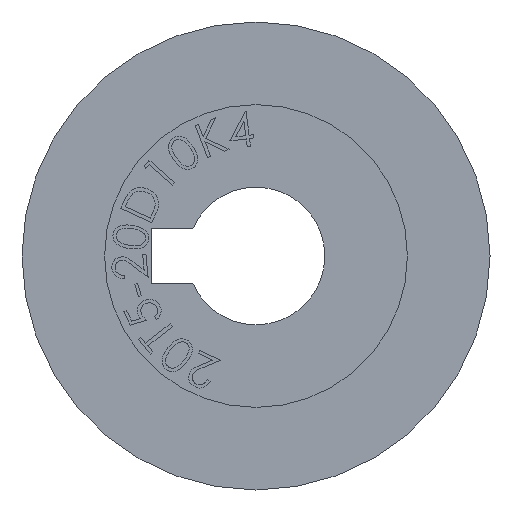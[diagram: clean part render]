
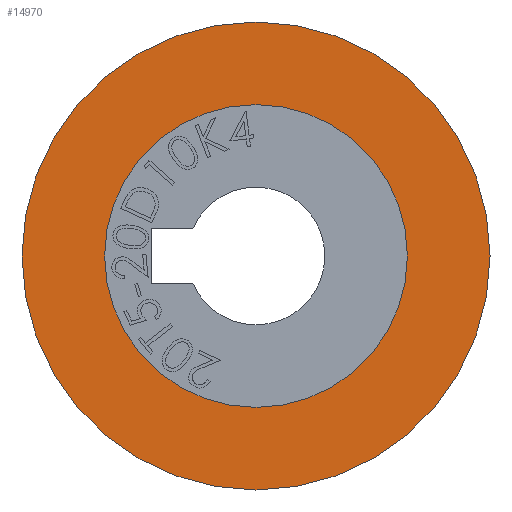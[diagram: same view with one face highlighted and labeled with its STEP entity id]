
A CAD part, left-side view. The second image highlights one B-rep face of the part: STEP entity #14970.
In plain terms, the highlighted planar face has unit normal (-1, 0, 0).
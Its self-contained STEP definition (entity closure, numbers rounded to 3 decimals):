
#382 = CIRCLE ( 'NONE', #18224, 17. ) ;
#889 = DIRECTION ( 'NONE',  ( 1., 0., 0. ) ) ;
#1211 = DIRECTION ( 'NONE',  ( 0., 0., 1. ) ) ;
#1307 = PLANE ( 'NONE',  #15933 ) ;
#1644 = VERTEX_POINT ( 'NONE', #5200 ) ;
#2539 = ORIENTED_EDGE ( 'NONE', *, *, #5347, .T. ) ;
#2676 = DIRECTION ( 'NONE',  ( 0., 0., 1. ) ) ;
#3018 = DIRECTION ( 'NONE',  ( -1., 0., 0. ) ) ;
#3307 = CARTESIAN_POINT ( 'NONE',  ( 1., 0., 0. ) ) ;
#4980 = CARTESIAN_POINT ( 'NONE',  ( 1., 0., 0. ) ) ;
#5006 = EDGE_CURVE ( 'NONE', #15994, #10031, #17014, .T. ) ;
#5200 = CARTESIAN_POINT ( 'NONE',  ( 1., 0., -11. ) ) ;
#5249 = AXIS2_PLACEMENT_3D ( 'NONE', #18015, #6580, #2676 ) ;
#5347 = EDGE_CURVE ( 'NONE', #10031, #15994, #382, .T. ) ;
#5660 = AXIS2_PLACEMENT_3D ( 'NONE', #8276, #889, #14036 ) ;
#5760 = ORIENTED_EDGE ( 'NONE', *, *, #5006, .T. ) ;
#6159 = VERTEX_POINT ( 'NONE', #15657 ) ;
#6580 = DIRECTION ( 'NONE',  ( -1., 0., 0. ) ) ;
#6905 = FACE_OUTER_BOUND ( 'NONE', #14675, .T. ) ;
#7658 = CARTESIAN_POINT ( 'NONE',  ( 1., 0., 17. ) ) ;
#7691 = AXIS2_PLACEMENT_3D ( 'NONE', #4980, #17579, #17489 ) ;
#8276 = CARTESIAN_POINT ( 'NONE',  ( 1., 0., 0. ) ) ;
#9058 = DIRECTION ( 'NONE',  ( 0., 0., 1. ) ) ;
#9459 = EDGE_CURVE ( 'NONE', #6159, #1644, #15246, .T. ) ;
#10031 = VERTEX_POINT ( 'NONE', #16439 ) ;
#11986 = CIRCLE ( 'NONE', #5660, 11. ) ;
#12561 = DIRECTION ( 'NONE',  ( -1., 0., 0. ) ) ;
#13925 = ORIENTED_EDGE ( 'NONE', *, *, #14682, .T. ) ;
#14036 = DIRECTION ( 'NONE',  ( 0., 0., 1. ) ) ;
#14675 = EDGE_LOOP ( 'NONE', ( #5760, #2539 ) ) ;
#14682 = EDGE_CURVE ( 'NONE', #1644, #6159, #11986, .T. ) ;
#14970 = ADVANCED_FACE ( 'NONE', ( #6905, #15687 ), #1307, .T. ) ;
#15246 = CIRCLE ( 'NONE', #7691, 11. ) ;
#15657 = CARTESIAN_POINT ( 'NONE',  ( 1., 0., 11. ) ) ;
#15687 = FACE_BOUND ( 'NONE', #18648, .T. ) ;
#15933 = AXIS2_PLACEMENT_3D ( 'NONE', #18520, #12561, #1211 ) ;
#15994 = VERTEX_POINT ( 'NONE', #7658 ) ;
#16439 = CARTESIAN_POINT ( 'NONE',  ( 1., 0., -17. ) ) ;
#16656 = ORIENTED_EDGE ( 'NONE', *, *, #9459, .T. ) ;
#17014 = CIRCLE ( 'NONE', #5249, 17. ) ;
#17489 = DIRECTION ( 'NONE',  ( 0., 0., 1. ) ) ;
#17579 = DIRECTION ( 'NONE',  ( 1., 0., 0. ) ) ;
#18015 = CARTESIAN_POINT ( 'NONE',  ( 1., 0., 0. ) ) ;
#18224 = AXIS2_PLACEMENT_3D ( 'NONE', #3307, #3018, #9058 ) ;
#18520 = CARTESIAN_POINT ( 'NONE',  ( 1., 0., 0. ) ) ;
#18648 = EDGE_LOOP ( 'NONE', ( #16656, #13925 ) ) ;
